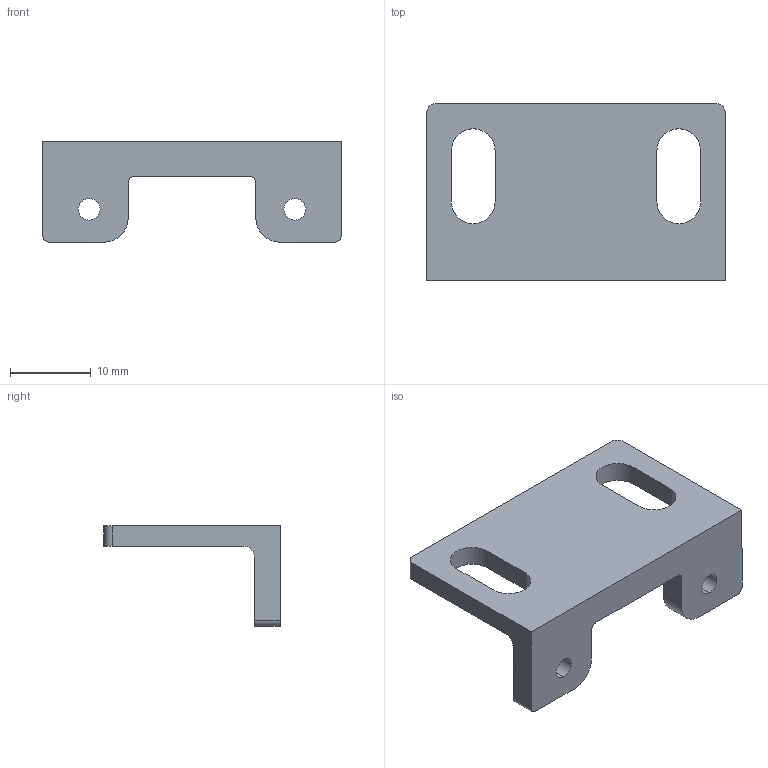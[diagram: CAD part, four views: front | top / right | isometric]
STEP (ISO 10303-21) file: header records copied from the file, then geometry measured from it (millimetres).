
FILE_DESCRIPTION (( 'STEP AP214' ), '1' );
FILE_NAME ('TACH_1.0_Bracket_Short.STEP', '2017-09-07T13:28:17', ( 'ART' ), ( 'Microsoft' ), 'SwSTEP 2.0', 'SolidWorks 2015', '' );
FILE_SCHEMA (( 'AUTOMOTIVE_DESIGN' ));
Length unit declared in the file: inch
Products named in the file (1): TACH_1.0_Bracket_Short
Bounding box: 36.83 x 21.78 x 12.41 mm (x, y, z)
Volume: 2458.9 mm3; surface area: 2396.4 mm2
Topology: 1 solids, 1 shells, 33 faces, 93 edges, 62 vertices
Faces by surface type: cylinder 17, plane 16
Entity records: 1137 total; most frequent: DIRECTION 195, CARTESIAN_POINT 189, ORIENTED_EDGE 186, EDGE_CURVE 93, AXIS2_PLACEMENT_3D 68, VERTEX_POINT 62, LINE 59, VECTOR 59
